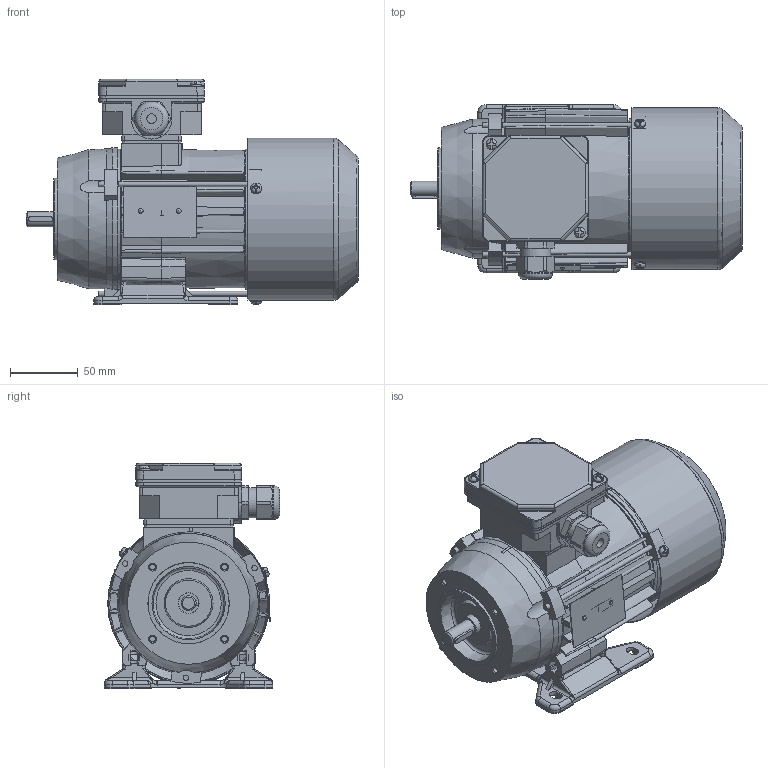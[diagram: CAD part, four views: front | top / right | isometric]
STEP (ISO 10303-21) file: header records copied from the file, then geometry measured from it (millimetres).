
FILE_DESCRIPTION(/* description */ ('Unknown'),/* implementation_level */ '2;1');
FILE_NAME(/* name */ '3SIEL63-6B2',/* time_stamp */ '2021-02-01T14:39:44+01:00',/* author */ ('Unknown'),/* organization */ ('Unknown'),/* preprocessor_version */ 'ST-DEVELOPER v16.7',/* originating_system */ 'Solid Edge',/* authorisation */ 'Unknown');
FILE_SCHEMA (('AUTOMOTIVE_DESIGN {1 0 10303 214 3 1 1}'));
Length unit declared in the file: millimetre
Products named in the file (1): 3SIEL63-6B2
Bounding box: 244.47 x 129 x 166 mm (x, y, z)
Volume: 577393.9 mm3; surface area: 363753.5 mm2
Topology: 1 solids, 1 shells, 2335 faces, 6642 edges, 4310 vertices
Faces by surface type: plane 1202, cylinder 570, cone 279, bspline 133, torus 130, sphere 21
Full cylindrical faces by diameter (mm): 2 x1, 2.4 x2, 3.7 x7, 3.8 x1, 4 x8, 4.134 x4, 4.5 x3, 4.8 x2, 5 x2, 7 x4, 8 x6, 10.998 x1, 12.897 x1, 13.097 x1, 14.997 x2, 15.4 x2, 18.996 x2, 19.496 x1, 19.996 x1, 20.096 x1, 21.516 x4, 22.3 x1, 25 x1, 28 x2, 28.48 x4, 31 x2, 35 x3, 60 x1, 71.986 x1, 99 x2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
Entity records: 95310 total; most frequent: CARTESIAN_POINT 20371, ORIENTED_EDGE 12626, DIRECTION 11636, EDGE_CURVE 6313, AXIS2_PLACEMENT_3D 4202, VERTEX_POINT 4193, LINE 3232, VECTOR 3232
